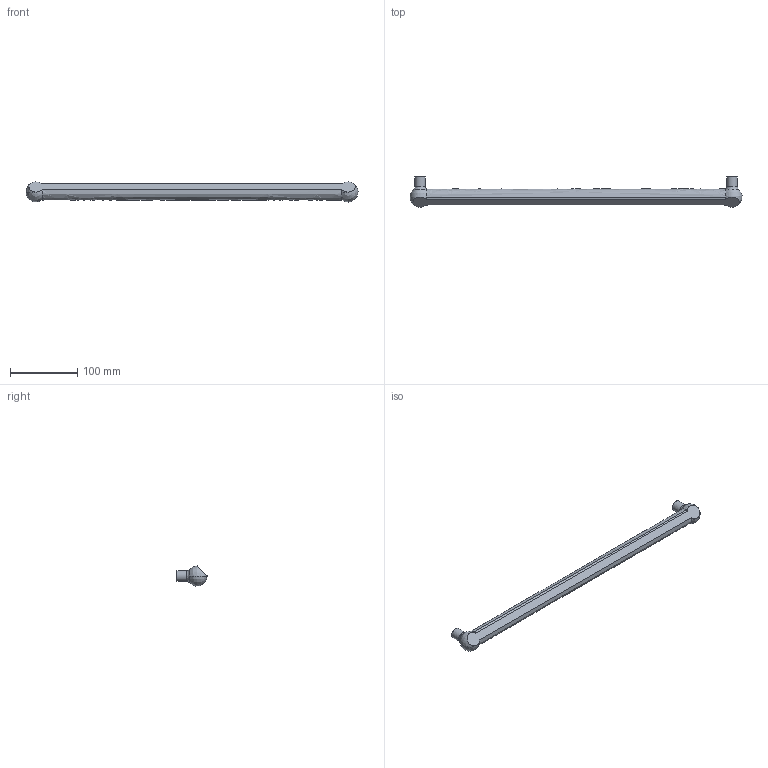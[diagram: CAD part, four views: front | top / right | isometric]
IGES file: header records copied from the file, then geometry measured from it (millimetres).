
Start section: Data from Parasolid IGES Translator 15.0.47, Copyright(c) 2006 Siemens P LM Software. All Rights Reserved.
Global section: file name: 9105770.igs; native system:  By UGS Corp.; preprocessor: XPlus GENERIC/IGES 3.0; author: Noname; organization: Noname; date: 20140122.155745; units: millimetre
Bounding box: 494.85 x 45 x 29.88 mm (x, y, z)
Surface area: 39788.7 mm2 (no closed solid volume)
Topology: 0 solids, 0 shells, 17 faces, 78 edges, 68 vertices
Faces by surface type: revolution 12, extrusion 5
